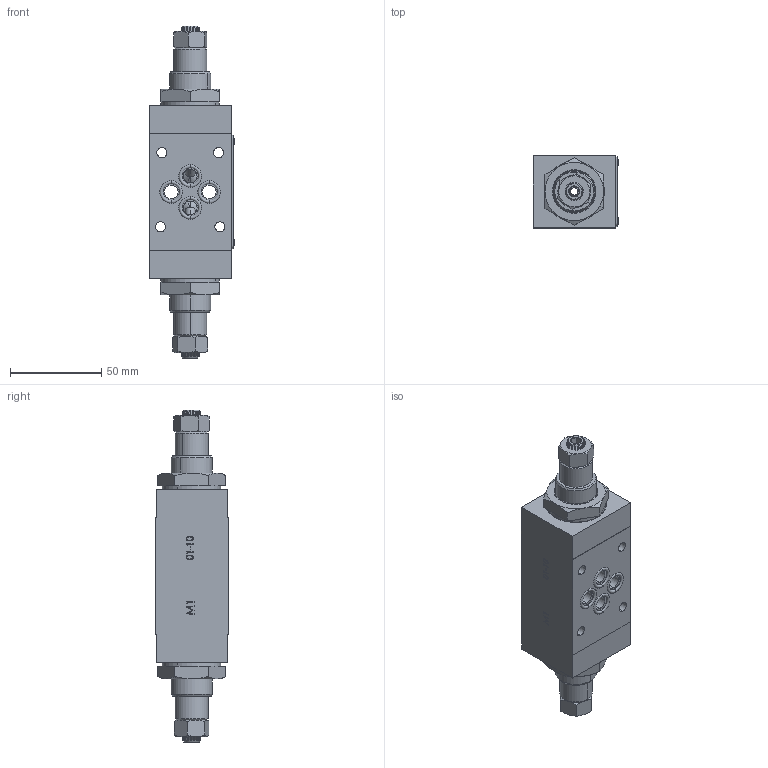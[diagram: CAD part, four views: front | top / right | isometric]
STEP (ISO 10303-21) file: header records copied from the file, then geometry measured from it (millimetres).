
FILE_DESCRIPTION (( 'STEP AP214' ), '1' );
FILE_NAME ('358-5-AB-03-H.STEP', '2015-05-18T08:03:22', ( '' ), ( '' ), 'SwSTEP 2.0', 'SolidWorks 2014', '' );
FILE_SCHEMA (( 'AUTOMOTIVE_DESIGN' ));
Length unit declared in the file: millimetre
Products named in the file (1): 358-5-AB-03-H
Bounding box: 46.96 x 40.38 x 181.6 mm (x, y, z)
Surface area: 35516.8 mm2 (no closed solid volume)
Topology: 0 solids, 55 shells, 722 faces, 3501 edges, 2743 vertices
Faces by surface type: plane 386, cylinder 114, bspline 100, cone 98, torus 24
Entity records: 56460 total; most frequent: CARTESIAN_POINT 23067, ORIENTED_EDGE 4734, DIRECTION 4333, EDGE_CURVE 3497, VERTEX_POINT 2743, LINE 2231, VECTOR 2231, AXIS2_PLACEMENT_3D 1051
